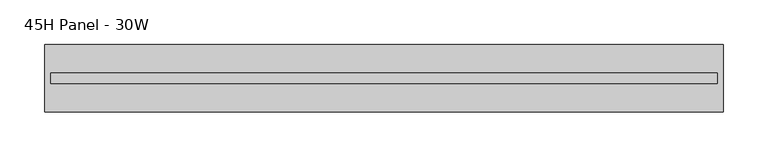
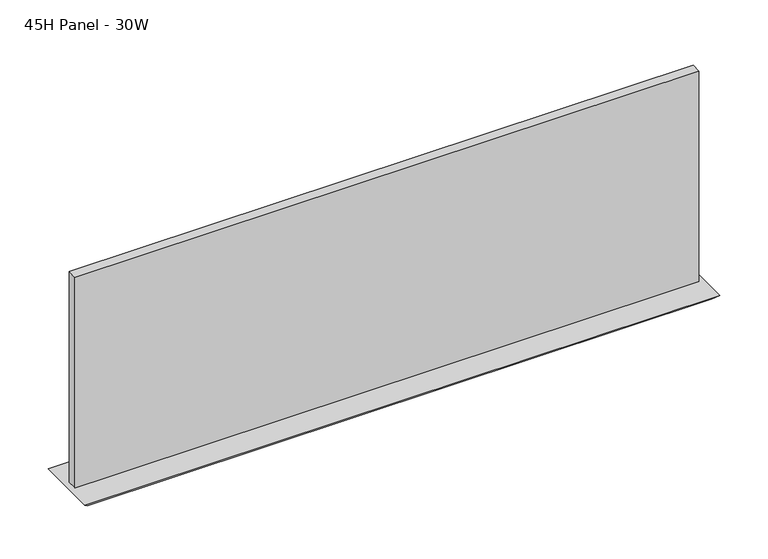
"""IFC4 building model written with IfcOpenShell, lengths in millimetres: furniture geometry, Steelcase - Montage - Tiles - 10H - Frameless Glass Stacker : 45H Panel - 30W."""

from ifc_helpers import new_model, si_unit, frame, origin, place, context, project, spatial, polyline, outline, extrude, faceted_brep, source, transform, mapped, element, save


def furniture_45h_panel_30w_e69d3508(model_context):
    return source(origin(), model_context, "Body", "SolidModel", [
        faceted_brep([(762.0, -38.1000015, 1136.65), (0.0, -38.1000015, 1136.65), (6.35, -31.7500015, 1130.3), (755.65, -31.7500015, 1130.3), (6.35, 31.7500015, 1130.3), (755.65, 31.7500015, 1130.3), (0.0, 38.1000015, 1136.65), (762.0, 38.1000015, 1136.65)], [[[0, 1, 2, 3]], [[3, 2, 4, 5]], [[6, 7, 5, 4]], [[1, 0, 7, 6]], [[2, 1, 6, 4]], [[0, 3, 5, 7]]]),
        extrude(outline(polyline([(755.2181828, -5.9944001), (6.7818001, -5.9944001), (6.7818001, 5.9944008), (755.2181828, 5.9944008), (755.2181828, -5.9944001)])), frame((0.0, 0.0, 1136.65), z_axis=(0.0, 0.0, 1.0), x_axis=(1.0, 0.0, 0.0)), (0.0, 0.0, 1.0), 267.7160475),
    ])


if __name__ == "__main__":
    model = new_model("IFC4")
    model_context = context("Model", 3, world=origin())
    ifc_project = project(units=[si_unit("LENGTHUNIT", "METRE", prefix="MILLI")], contexts=[model_context])
    site = spatial("IfcSite", under=ifc_project)
    building = spatial("IfcBuilding", under=site)
    placement = place(None, origin())
    furniture_45h_panel_30w_shape = furniture_45h_panel_30w_e69d3508(model_context)
    element("IfcFurniture", 1, ObjectType="Steelcase - Montage - Tiles - 10H - Frameless Glass Stacker : 45H Panel - 30W", at=placement, inside=building, context=model_context, shape_type="MappedRepresentation", body=[
        mapped(furniture_45h_panel_30w_shape, transform((0.0, 0.0, 0.0), x_axis=(1.0, 0.0, 0.0), y_axis=(0.0, 1.0, 0.0), z_axis=(0.0, 0.0, 1.0))),
    ])
    save(model, "model.ifc")
